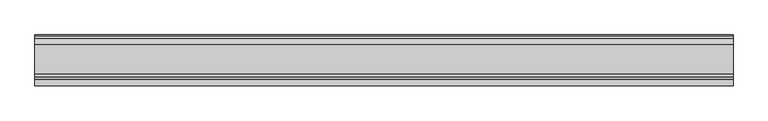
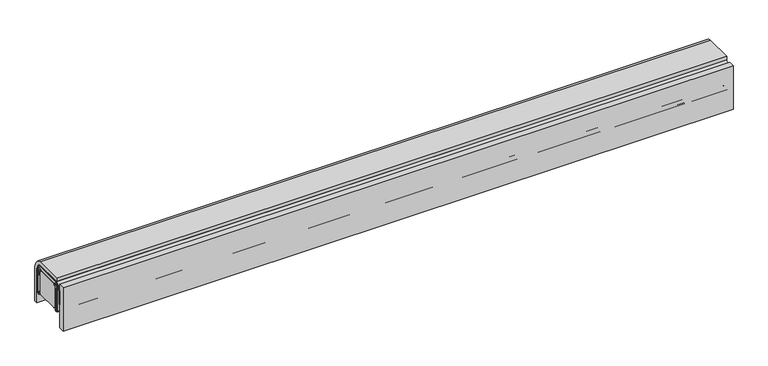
"""IFC4 building model written with IfcOpenShell, lengths in millimetres: proxy geometry, Windows-Blinds Schenker Stores Stores a lamelles Economy EC 70 : Windows-Blinds Schenker Stores Stores a lamelles Economy EC 70."""

from ifc_helpers import new_model, si_unit, point, frame, frame_2d, origin, place, context, project, spatial, polyline, circle_curve, trimmed, segment, composite_curve, outline, extrude, source, transform, mapped, element, save


def generic_models_0d125391(model_context):
    return source(origin(), model_context, "Body", "SweptSolid", [
        extrude(outline(composite_curve([segment(polyline([(-91.5000059, 2487.3022268), (-18.4999378, 2487.3022268)]), True, "CONTINUOUS"), segment(trimmed(circle_curve(frame_2d((-18.4999378, 2481.3023024)), 5.9999245), [point((-18.4999378, 2487.3022268))], [point((-12.5000133, 2481.3023008))], False, "CARTESIAN"), True, "CONTINUOUS"), segment(polyline([(-12.5000133, 2481.3023008), (-12.5000315, 2413.0521071)]), True, "CONTINUOUS"), segment(trimmed(circle_curve(frame_2d((-15.0000242, 2413.0521078)), 2.4999928), [point((-12.5000315, 2413.0521071))], [point((-15.0000242, 2410.5521151))], False, "CARTESIAN"), True, "CONTINUOUS"), segment(polyline([(-15.0000242, 2410.5521151), (-17.64322, 2410.5521151), (-20.4995409, 2412.5521383), (-20.4995409, 2413.5522226), (-18.4995426, 2413.5522226), (-18.4995426, 2412.5521383), (-14.5000162, 2412.5521383), (-14.5000162, 2481.312586)]), True, "CONTINUOUS"), segment(trimmed(circle_curve(frame_2d((-18.5452534, 2481.1858094)), 4.0472233), [point((-14.5000162, 2481.312586))], [point((-21.374557, 2484.0797784))], True, "CARTESIAN"), True, "CONTINUOUS"), segment(trimmed(circle_curve(frame_2d((-33.0827561, 2496.0555752)), 16.7481829), [point((-21.374557, 2484.0797784))], [point((-29.7015124, 2479.6522577))], False, "CARTESIAN"), True, "CONTINUOUS"), segment(polyline([(-29.7015124, 2479.6522577), (-80.2984313, 2479.6522577)]), True, "CONTINUOUS"), segment(trimmed(circle_curve(frame_2d((-76.9171877, 2496.0555752)), 16.7481829), [point((-80.2984313, 2479.6522577))], [point((-88.6253867, 2484.0797784))], False, "CARTESIAN"), True, "CONTINUOUS"), segment(trimmed(circle_curve(frame_2d((-91.4546904, 2481.1858094)), 4.0472233), [point((-88.6253867, 2484.0797784))], [point((-95.4999276, 2481.312586))], True, "CARTESIAN"), True, "CONTINUOUS"), segment(polyline([(-95.4999276, 2481.312586), (-95.4999276, 2412.5521383), (-91.5004011, 2412.5521383), (-91.5004011, 2413.5522226), (-89.5004028, 2413.5522226), (-89.5004028, 2412.5521383), (-92.3567237, 2410.5521151), (-94.9999195, 2410.5521151)]), True, "CONTINUOUS"), segment(trimmed(circle_curve(frame_2d((-94.9999195, 2413.0521078)), 2.4999928), [point((-94.9999195, 2410.5521151))], [point((-97.4999122, 2413.0521071))], False, "CARTESIAN"), True, "CONTINUOUS"), segment(polyline([(-97.4999122, 2413.0521071), (-97.4999304, 2481.3023008)]), True, "CONTINUOUS"), segment(trimmed(circle_curve(frame_2d((-91.5000059, 2481.3023024)), 5.9999245), [point((-97.4999304, 2481.3023008))], [point((-91.5000059, 2487.3022268))], False, "CARTESIAN"), True, "CONTINUOUS")], self_intersect=False)), frame((-850.0, 0.0, 0.0), z_axis=(1.0, 0.0, 0.0), x_axis=(0.0, 1.0, 0.0)), (0.0, 0.0, 1.0), 1700.0),
        extrude(outline(composite_curve([segment(polyline([(-81.8291141, 2477.7041208), (-27.8291035, 2477.7041208)]), True, "CONTINUOUS"), segment(trimmed(circle_curve(frame_2d((-27.8291035, 2472.7041353)), 4.9999855), [point((-27.8291035, 2477.7041208))], [point((-22.829118, 2472.7041341))], False, "CARTESIAN"), True, "CONTINUOUS"), segment(polyline([(-22.829118, 2472.7041341), (-22.8291317, 2418.7040871)]), True, "CONTINUOUS"), segment(trimmed(circle_curve(frame_2d((-27.8291172, 2418.7040884)), 4.9999855), [point((-22.8291317, 2418.7040871))], [point((-27.8291172, 2413.7041029))], False, "CARTESIAN"), True, "CONTINUOUS"), segment(polyline([(-27.8291172, 2413.7041029), (-81.82913, 2413.7041029)]), True, "CONTINUOUS"), segment(trimmed(circle_curve(frame_2d((-81.82913, 2418.704102)), 4.9999991), [point((-81.82913, 2413.7041029))], [point((-86.8291292, 2418.7041031))], False, "CARTESIAN"), True, "CONTINUOUS"), segment(polyline([(-86.8291292, 2418.7041031), (-86.8291178, 2472.7041182)]), True, "CONTINUOUS"), segment(trimmed(circle_curve(frame_2d((-81.8291141, 2472.7041172)), 5.0000037), [point((-86.8291178, 2472.7041182))], [point((-81.8291141, 2477.7041208))], False, "CARTESIAN"), True, "CONTINUOUS")], self_intersect=False)), frame((-850.0, 0.0, 0.0), z_axis=(1.0, 0.0, 0.0), x_axis=(0.0, 1.0, 0.0)), (0.0, 0.0, 1.0), 1700.0),
        extrude(outline(composite_curve([segment(trimmed(circle_curve(frame_2d((-24.0793214, 2477.5003735)), 2.3498735), [point((-24.0793214, 2479.850247))], [point((-21.8998782, 2478.3789705))], False, "CARTESIAN"), True, "CONTINUOUS"), segment(polyline([(-21.8998782, 2478.3789705), (-15.5031804, 2462.8873168)]), True, "CONTINUOUS"), segment(trimmed(circle_curve(frame_2d((-20.6787692, 2460.7502514)), 5.5994435), [point((-15.5031804, 2462.8873168))], [point((-15.0793257, 2460.7502501))], False, "CARTESIAN"), True, "CONTINUOUS"), segment(polyline([(-15.0793257, 2460.7502501), (-15.079337, 2414.3501977)]), True, "CONTINUOUS"), segment(trimmed(circle_curve(frame_2d((-16.6793473, 2414.3501981)), 1.6000103), [point((-15.079337, 2414.3501977))], [point((-18.253021, 2414.0610892))], False, "CARTESIAN"), True, "CONTINUOUS"), segment(polyline([(-18.253021, 2414.0610892), (-19.1580659, 2418.9874179), (-18.3568032, 2419.1000307), (-17.6696583, 2414.2108569)]), True, "CONTINUOUS"), segment(trimmed(circle_curve(frame_2d((-16.6794125, 2414.3500302)), 0.999978), [point((-17.6696583, 2414.2108569))], [point((-15.6794344, 2414.35003))], True, "CARTESIAN"), True, "CONTINUOUS"), segment(polyline([(-15.6794344, 2414.35003), (-15.6794231, 2460.7502501)]), True, "CONTINUOUS"), segment(trimmed(circle_curve(frame_2d((-20.6791836, 2460.7502513)), 4.9997605), [point((-15.6794231, 2460.7502501))], [point((-16.0422166, 2462.6200487))], True, "CARTESIAN"), True, "CONTINUOUS"), segment(polyline([(-16.0422166, 2462.6200487), (-22.4740091, 2478.1975013)]), True, "CONTINUOUS"), segment(trimmed(circle_curve(frame_2d((-24.0793214, 2477.4999796)), 1.750304), [point((-22.4740091, 2478.1975013))], [point((-24.0793214, 2479.2502836))], True, "CARTESIAN"), True, "CONTINUOUS"), segment(polyline([(-24.0793214, 2479.2502836), (-86.0793274, 2479.2502836)]), True, "CONTINUOUS"), segment(trimmed(circle_curve(frame_2d((-86.0793274, 2477.4999796)), 1.750304), [point((-86.0793274, 2479.2502836))], [point((-87.6846397, 2478.1975013))], True, "CARTESIAN"), True, "CONTINUOUS"), segment(polyline([(-87.6846397, 2478.1975013), (-94.1164322, 2462.6200489)]), True, "CONTINUOUS"), segment(trimmed(circle_curve(frame_2d((-89.4794652, 2460.7502514)), 4.9997605), [point((-94.1164322, 2462.6200489))], [point((-94.4792258, 2460.7502502))], True, "CARTESIAN"), True, "CONTINUOUS"), segment(polyline([(-94.4792258, 2460.7502502), (-94.4792144, 2414.35003)]), True, "CONTINUOUS"), segment(trimmed(circle_curve(frame_2d((-93.4792364, 2414.3500302)), 0.999978), [point((-94.4792144, 2414.35003))], [point((-92.4889905, 2414.2108569))], True, "CARTESIAN"), True, "CONTINUOUS"), segment(polyline([(-92.4889905, 2414.2108569), (-91.8018456, 2419.1000307), (-91.0005829, 2418.9874179), (-91.9056278, 2414.0610892)]), True, "CONTINUOUS"), segment(trimmed(circle_curve(frame_2d((-93.4793015, 2414.3501981)), 1.6000103), [point((-91.9056278, 2414.0610892))], [point((-95.0793118, 2414.3501977))], False, "CARTESIAN"), True, "CONTINUOUS"), segment(polyline([(-95.0793118, 2414.3501977), (-95.0793231, 2460.7502501)]), True, "CONTINUOUS"), segment(trimmed(circle_curve(frame_2d((-89.4798796, 2460.7502514)), 5.5994435), [point((-95.0793231, 2460.7502501))], [point((-94.6554684, 2462.8873168))], False, "CARTESIAN"), True, "CONTINUOUS"), segment(polyline([(-94.6554684, 2462.8873168), (-88.2587706, 2478.3789705)]), True, "CONTINUOUS"), segment(trimmed(circle_curve(frame_2d((-86.0793274, 2477.5003735)), 2.3498735), [point((-88.2587706, 2478.3789705))], [point((-86.0793274, 2479.850247))], False, "CARTESIAN"), True, "CONTINUOUS"), segment(polyline([(-86.0793274, 2479.850247), (-24.0793214, 2479.850247)]), True, "CONTINUOUS")], self_intersect=False)), frame((-850.0, 0.0, 0.0), z_axis=(1.0, 0.0, 0.0), x_axis=(0.0, 1.0, 0.0)), (0.0, 0.0, 1.0), 1700.0),
        extrude(outline(composite_curve([segment(polyline([(-20.9923414, 2489.5002394), (-20.9923414, 2487.5002161), (-93.1938905, 2487.5002161)]), True, "CONTINUOUS"), segment(trimmed(circle_curve(frame_2d((-93.1938905, 2479.5005157)), 7.9997004), [point((-93.1938905, 2487.5002161))], [point((-100.1218637, 2483.5003149))], True, "CARTESIAN"), True, "CONTINUOUS"), segment(polyline([(-100.1218637, 2483.5003149), (-106.4271611, 2472.5790339)]), True, "CONTINUOUS"), segment(trimmed(circle_curve(frame_2d((-99.4988314, 2468.5790289)), 8.000112), [point((-106.4271611, 2472.5790339))], [point((-107.4989434, 2468.5790289))], True, "CARTESIAN"), True, "CONTINUOUS"), segment(polyline([(-107.4989434, 2468.5790289), (-107.4989434, 2438.0001852), (-109.4940267, 2438.0001852), (-109.4940267, 2468.2769728)]), True, "CONTINUOUS"), segment(trimmed(circle_curve(frame_2d((-99.5010611, 2468.5803472)), 9.9975696), [point((-109.4940267, 2468.2769728))], [point((-108.1592183, 2473.5791182))], False, "CARTESIAN"), True, "CONTINUOUS"), segment(polyline([(-108.1592183, 2473.5791182), (-101.8539553, 2484.5001943)]), True, "CONTINUOUS"), segment(trimmed(circle_curve(frame_2d((-93.1936393, 2479.500177)), 10.0000624), [point((-101.8539553, 2484.5001943))], [point((-93.1936393, 2489.5002394))], False, "CARTESIAN"), True, "CONTINUOUS"), segment(polyline([(-93.1936393, 2489.5002394), (-20.9923414, 2489.5002394)]), True, "CONTINUOUS")], self_intersect=False)), frame((-850.0, 0.0, 0.0), z_axis=(1.0, 0.0, 0.0), x_axis=(0.0, 1.0, 0.0)), (0.0, 0.0, 1.0), 1700.0),
        extrude(outline(polyline([(850.0, -109.4987058), (850.0, -123.4990459), (-850.0, -123.4990459), (-850.0, -109.4987058), (850.0, -109.4987058)])), frame((0.0, 0.0, 2375.7407242), z_axis=(0.0, 0.0, 1.0), x_axis=(1.0, 0.0, 0.0)), (0.0, 0.0, 1.0), 116.7597336),
        extrude(outline(composite_curve([segment(polyline([(-94.9999951, 2500.0), (-22.8052647, 2500.0)]), True, "CONTINUOUS"), segment(trimmed(circle_curve(frame_2d((-22.8052647, 2483.5001807)), 16.4998193), [point((-22.8052647, 2500.0))], [point((-8.5159889, 2491.7500675))], False, "CARTESIAN"), True, "CONTINUOUS"), segment(polyline([(-8.5159889, 2491.7500675), (-2.2106915, 2480.8289318)]), True, "CONTINUOUS"), segment(trimmed(circle_curve(frame_2d((-16.5009378, 2472.5784848)), 16.5009398), [point((-2.2106915, 2480.8289318))], [point((2e-06, 2472.5784798))], False, "CARTESIAN"), True, "CONTINUOUS"), segment(polyline([(2e-06, 2472.5784798), (-2.52e-05, 2382.50005), (-8.5000242, 2382.50005), (-8.5000015, 2472.578854)]), True, "CONTINUOUS"), segment(trimmed(circle_curve(frame_2d((-16.4995271, 2472.578856)), 7.9995256), [point((-8.5000015, 2472.578854))], [point((-9.5717283, 2476.5786077))], True, "CARTESIAN"), True, "CONTINUOUS"), segment(polyline([(-9.5717283, 2476.5786077), (-15.8772203, 2487.5000805)]), True, "CONTINUOUS"), segment(trimmed(circle_curve(frame_2d((-22.8054146, 2483.5001004)), 7.9999824), [point((-15.8772203, 2487.5000805))], [point((-22.8054146, 2491.5000828))], True, "CARTESIAN"), True, "CONTINUOUS"), segment(polyline([(-22.8054146, 2491.5000828), (-94.9999951, 2491.5000828), (-94.9999951, 2500.0)]), True, "CONTINUOUS")], self_intersect=False)), frame((-850.0, 0.0, 0.0), z_axis=(1.0, 0.0, 0.0), x_axis=(0.0, 1.0, 0.0)), (0.0, 0.0, 1.0), 1700.0),
    ])


if __name__ == "__main__":
    model = new_model("IFC4")
    model_context = context("Model", 3, world=origin())
    ifc_project = project(units=[si_unit("LENGTHUNIT", "METRE", prefix="MILLI")], contexts=[model_context])
    site = spatial("IfcSite", under=ifc_project)
    building = spatial("IfcBuilding", under=site)
    placement = place(None, origin())
    generic_models_shape = generic_models_0d125391(model_context)
    element("IfcBuildingElementProxy", 1, Name="Windows-Blinds Schenker Stores Stores a lamelles Economy EC 70 : Windows-Blinds Schenker Stores Stores a lamelles Economy EC 70", ObjectType="Windows-Blinds Schenker Stores Stores a lamelles Economy EC 70 : Windows-Blinds Schenker Stores Stores a lamelles Economy EC 70", at=placement, inside=building, context=model_context, shape_type="MappedRepresentation", body=[
        mapped(generic_models_shape, transform((0.0, 0.0, 0.0), x_axis=(1.0, 0.0, 0.0), y_axis=(0.0, 1.0, 0.0), z_axis=(0.0, 0.0, 1.0))),
    ])
    save(model, "model.ifc")
